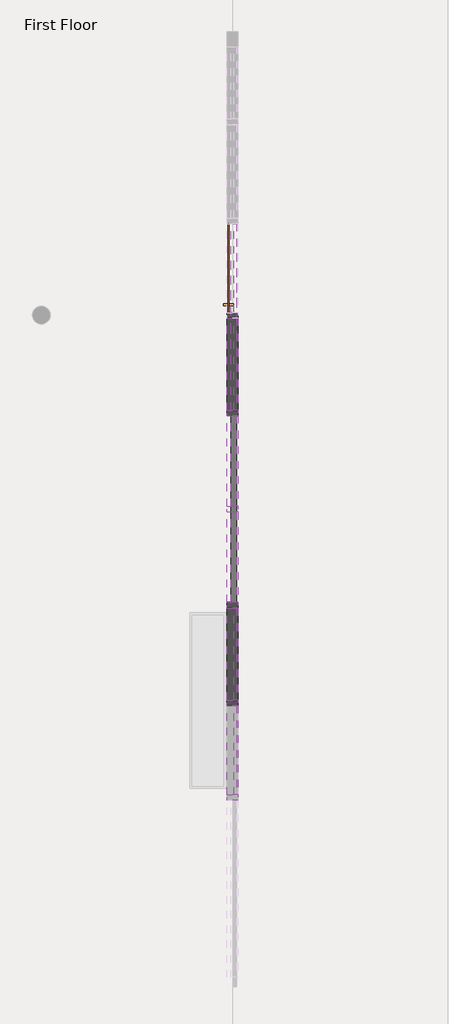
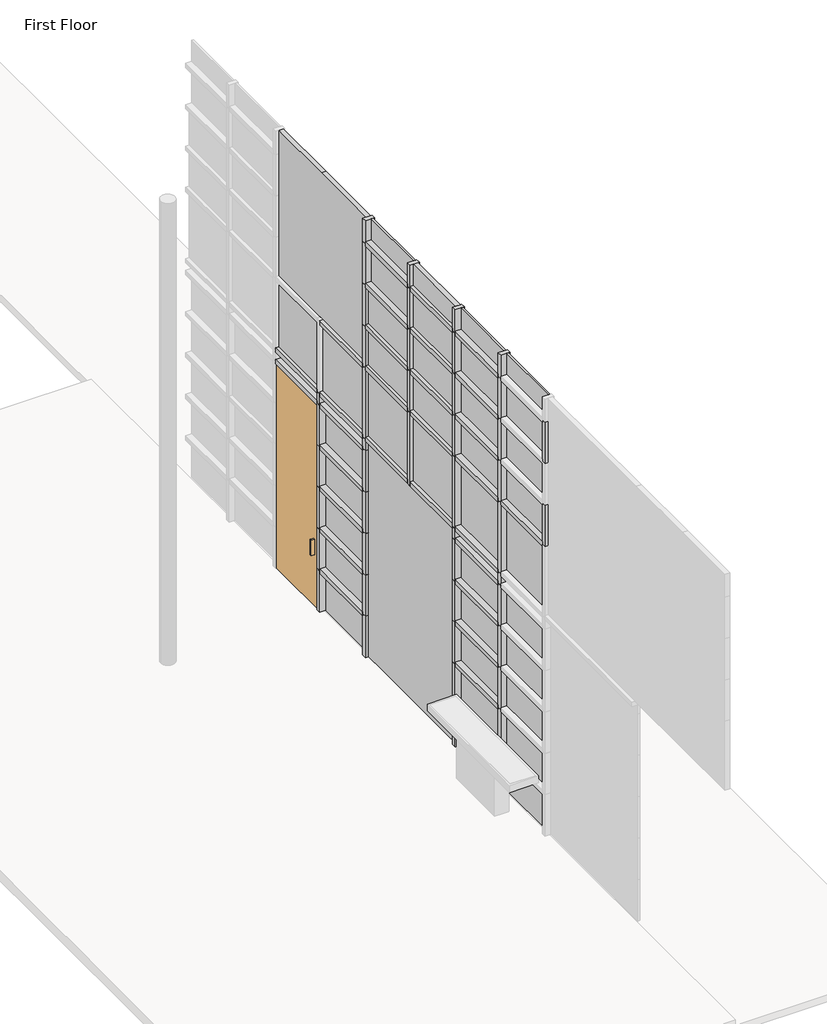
# One storey, part 5 of 9: 76 members, 43 plates, 1 door.
"""IFC4 building model written with IfcOpenShell, lengths in millimetres."""

from ifc_helpers import new_model, si_unit, origin, place, context, project, spatial, transform, mapped, element, save
from components import curtain_wall_sgl_glass_curtain_wall_sgl_glass_6f19eea7, rectangular_mullion_rectangular_mullion_1_6590179b, rectangular_mullion_rectangular_mullion_1_8247c789, rectangular_mullion_rectangular_mullion_1_783bfc0b, rectangular_mullion_rectangular_mullion_1_1f17a5e5, rectangular_mullion_rectangular_mullion_1_6e77e263, rectangular_mullion_rectangular_mullion_1_ec152034, rectangular_mullion_rectangular_mullion_1_d31034ac, rectangular_mullion_rectangular_mullion_1_8148fb0b, system_panel_glazed_b4721104, system_panel_glazed_6a0b3b0c, system_panel_glazed_52538ea0, system_panel_glazed_9cb638f8, system_panel_glazed_15330518, system_panel_glazed_088600c4, system_panel_glazed_0da01d59, system_panel_glazed_29ccdd55, system_panel_glazed_878c317c, system_panel_glazed_cc9c3ac5, system_panel_glazed_cbd16b08, system_panel_glazed_9be232bd, system_panel_solid_black_fee7476e, system_panel_solid_red_bfcf1acb, system_panel_solid_white_5bc9fe77, system_panel_solid_white_17b6a00f, system_panel_solid_white_0fc16f05, system_panel_wood_7e83a821, system_panel_wood_c3fb54ce

model = new_model("IFC4")

# Units and contexts
model_context = context("Model", 3, world=origin())
ifc_project = project(units=[si_unit("LENGTHUNIT", "METRE", prefix="MILLI")], contexts=[model_context])

# Site, building, storey
site = spatial("IfcSite", under=ifc_project)
building = spatial("IfcBuilding", under=site)
storey = spatial("IfcBuildingStorey", under=building, Name="First Floor", Elevation=0.0)

# Door
placement = place(None, origin())
curtain_wall_sgl_glass_curtain_wall_sgl_glass_shape = curtain_wall_sgl_glass_curtain_wall_sgl_glass_6f19eea7(model_context)
element("IfcDoor", 1, ObjectType="Curtain Wall Sgl Glass : Curtain Wall Sgl Glass", at=placement, inside=storey, context=model_context, shape_type="MappedRepresentation", body=[
    mapped(curtain_wall_sgl_glass_curtain_wall_sgl_glass_shape, transform((8.2598336, 11850.2691726, 0.0), x_axis=(0.0, 1.0, 0.0), y_axis=(-1.0, 0.0, 0.0), z_axis=(0.0, 0.0, 1.0))),
])

# Members
rectangular_mullion_rectangular_mullion_1_shape = rectangular_mullion_rectangular_mullion_1_6590179b(model_context)
element("IfcMember", 2, ObjectType="Rectangular Mullion : Rectangular Mullion 1", at=placement, inside=storey, context=model_context, shape_type="MappedRepresentation", body=[
    mapped(rectangular_mullion_rectangular_mullion_1_shape, transform((8.2598336, 10215.1441726, 3219.3104781), x_axis=(0.0, -1.0, 0.0), y_axis=(-1.0, 0.0, 0.0), z_axis=(0.0, 0.0, -1.0))),
])
element("IfcMember", 3, ObjectType="Rectangular Mullion : Rectangular Mullion 1", at=placement, inside=storey, context=model_context, shape_type="MappedRepresentation", body=[
    mapped(rectangular_mullion_rectangular_mullion_1_shape, transform((8.2598336, 8047.072744, 3219.3104781), x_axis=(0.0, -1.0, 0.0), y_axis=(-1.0, 0.0, 0.0), z_axis=(0.0, 0.0, -1.0))),
])
element("IfcMember", 4, ObjectType="Rectangular Mullion : Rectangular Mullion 1", at=placement, inside=storey, context=model_context, shape_type="MappedRepresentation", body=[
    mapped(rectangular_mullion_rectangular_mullion_1_shape, transform((8.2598336, 6944.8941726, 3219.3104781), x_axis=(0.0, -1.0, 0.0), y_axis=(-1.0, 0.0, 0.0), z_axis=(0.0, 0.0, -1.0))),
])
rectangular_mullion_rectangular_mullion_1_2_shape = rectangular_mullion_rectangular_mullion_1_8247c789(model_context)
element("IfcMember", 5, ObjectType="Rectangular Mullion : Rectangular Mullion 1", at=placement, inside=storey, context=model_context, shape_type="MappedRepresentation", body=[
    mapped(rectangular_mullion_rectangular_mullion_1_2_shape, transform((8.2598336, 9131.1084583, 3187.5604781), x_axis=(0.0, -1.0, 0.0), y_axis=(-1.0, 0.0, 0.0), z_axis=(0.0, 0.0, -1.0))),
])
rectangular_mullion_rectangular_mullion_1_3_shape = rectangular_mullion_rectangular_mullion_1_783bfc0b(model_context)
element("IfcMember", 6, ObjectType="Rectangular Mullion : Rectangular Mullion 1", at=placement, inside=storey, context=model_context, shape_type="MappedRepresentation", body=[
    mapped(rectangular_mullion_rectangular_mullion_1_3_shape, transform((8.2598336, 11317.322744, 3048.0), x_axis=(0.0, -1.0, 0.0), y_axis=(-1.0, 0.0, 0.0), z_axis=(0.0, 0.0, -1.0))),
])
element("IfcMember", 7, ObjectType="Rectangular Mullion : Rectangular Mullion 1", at=placement, inside=storey, context=model_context, shape_type="MappedRepresentation", body=[
    mapped(rectangular_mullion_rectangular_mullion_1_3_shape, transform((8.2598336, 10215.1441726, 3048.0), x_axis=(0.0, -1.0, 0.0), y_axis=(-1.0, 0.0, 0.0), z_axis=(0.0, 0.0, -1.0))),
])
element("IfcMember", 8, ObjectType="Rectangular Mullion : Rectangular Mullion 1", at=placement, inside=storey, context=model_context, shape_type="MappedRepresentation", body=[
    mapped(rectangular_mullion_rectangular_mullion_1_3_shape, transform((8.2598336, 8047.072744, 3048.0), x_axis=(0.0, -1.0, 0.0), y_axis=(-1.0, 0.0, 0.0), z_axis=(0.0, 0.0, -1.0))),
])
element("IfcMember", 9, ObjectType="Rectangular Mullion : Rectangular Mullion 1", at=placement, inside=storey, context=model_context, shape_type="MappedRepresentation", body=[
    mapped(rectangular_mullion_rectangular_mullion_1_3_shape, transform((8.2598336, 6944.8941726, 3048.0), x_axis=(0.0, -1.0, 0.0), y_axis=(-1.0, 0.0, 0.0), z_axis=(0.0, 0.0, -1.0))),
])
rectangular_mullion_rectangular_mullion_1_4_shape = rectangular_mullion_rectangular_mullion_1_1f17a5e5(model_context)
element("IfcMember", 10, ObjectType="Rectangular Mullion : Rectangular Mullion 1", at=placement, inside=storey, context=model_context, shape_type="MappedRepresentation", body=[
    mapped(rectangular_mullion_rectangular_mullion_1_4_shape, transform((8.2598336, 10215.1441726, 6096.0), x_axis=(0.0, -1.0, 0.0), y_axis=(-1.0, 0.0, 0.0), z_axis=(0.0, 0.0, -1.0))),
])
element("IfcMember", 11, ObjectType="Rectangular Mullion : Rectangular Mullion 1", at=placement, inside=storey, context=model_context, shape_type="MappedRepresentation", body=[
    mapped(rectangular_mullion_rectangular_mullion_1_4_shape, transform((8.2598336, 9131.1084583, 6096.0), x_axis=(0.0, -1.0, 0.0), y_axis=(-1.0, 0.0, 0.0), z_axis=(0.0, 0.0, -1.0))),
])
element("IfcMember", 12, ObjectType="Rectangular Mullion : Rectangular Mullion 1", at=placement, inside=storey, context=model_context, shape_type="MappedRepresentation", body=[
    mapped(rectangular_mullion_rectangular_mullion_1_4_shape, transform((8.2598336, 8047.072744, 6096.0), x_axis=(0.0, -1.0, 0.0), y_axis=(-1.0, 0.0, 0.0), z_axis=(0.0, 0.0, -1.0))),
])
element("IfcMember", 13, ObjectType="Rectangular Mullion : Rectangular Mullion 1", at=placement, inside=storey, context=model_context, shape_type="MappedRepresentation", body=[
    mapped(rectangular_mullion_rectangular_mullion_1_4_shape, transform((8.2598336, 6944.8941726, 6096.0), x_axis=(0.0, -1.0, 0.0), y_axis=(-1.0, 0.0, 0.0), z_axis=(0.0, 0.0, -1.0))),
])
rectangular_mullion_rectangular_mullion_1_5_shape = rectangular_mullion_rectangular_mullion_1_6e77e263(model_context)
element("IfcMember", 14, ObjectType="Rectangular Mullion : Rectangular Mullion 1", at=placement, inside=storey, context=model_context, shape_type="MappedRepresentation", body=[
    mapped(rectangular_mullion_rectangular_mullion_1_5_shape, transform((8.2598336, 11317.322744, 2438.4), x_axis=(0.0, -1.0, 0.0), y_axis=(-1.0, 0.0, 0.0), z_axis=(0.0, 0.0, -1.0))),
])
element("IfcMember", 15, ObjectType="Rectangular Mullion : Rectangular Mullion 1", at=placement, inside=storey, context=model_context, shape_type="MappedRepresentation", body=[
    mapped(rectangular_mullion_rectangular_mullion_1_5_shape, transform((8.2598336, 10215.1441726, 2438.4), x_axis=(0.0, -1.0, 0.0), y_axis=(-1.0, 0.0, 0.0), z_axis=(0.0, 0.0, -1.0))),
])
element("IfcMember", 16, ObjectType="Rectangular Mullion : Rectangular Mullion 1", at=placement, inside=storey, context=model_context, shape_type="MappedRepresentation", body=[
    mapped(rectangular_mullion_rectangular_mullion_1_5_shape, transform((8.2598336, 8047.072744, 2438.4), x_axis=(0.0, -1.0, 0.0), y_axis=(-1.0, 0.0, 0.0), z_axis=(0.0, 0.0, -1.0))),
])
element("IfcMember", 17, ObjectType="Rectangular Mullion : Rectangular Mullion 1", at=placement, inside=storey, context=model_context, shape_type="MappedRepresentation", body=[
    mapped(rectangular_mullion_rectangular_mullion_1_5_shape, transform((8.2598336, 6944.8941726, 2438.4), x_axis=(0.0, -1.0, 0.0), y_axis=(-1.0, 0.0, 0.0), z_axis=(0.0, 0.0, -1.0))),
])
element("IfcMember", 18, ObjectType="Rectangular Mullion : Rectangular Mullion 1", at=placement, inside=storey, context=model_context, shape_type="MappedRepresentation", body=[
    mapped(rectangular_mullion_rectangular_mullion_1_5_shape, transform((8.2598336, 11317.322744, 1219.2), x_axis=(0.0, -1.0, 0.0), y_axis=(-1.0, 0.0, 0.0), z_axis=(0.0, 0.0, -1.0))),
])
element("IfcMember", 19, ObjectType="Rectangular Mullion : Rectangular Mullion 1", at=placement, inside=storey, context=model_context, shape_type="MappedRepresentation", body=[
    mapped(rectangular_mullion_rectangular_mullion_1_5_shape, transform((8.2598336, 10215.1441726, 1219.2), x_axis=(0.0, -1.0, 0.0), y_axis=(-1.0, 0.0, 0.0), z_axis=(0.0, 0.0, -1.0))),
])
element("IfcMember", 20, ObjectType="Rectangular Mullion : Rectangular Mullion 1", at=placement, inside=storey, context=model_context, shape_type="MappedRepresentation", body=[
    mapped(rectangular_mullion_rectangular_mullion_1_5_shape, transform((8.2598336, 8047.072744, 1219.2), x_axis=(0.0, -1.0, 0.0), y_axis=(-1.0, 0.0, 0.0), z_axis=(0.0, 0.0, -1.0))),
])
element("IfcMember", 21, ObjectType="Rectangular Mullion : Rectangular Mullion 1", at=placement, inside=storey, context=model_context, shape_type="MappedRepresentation", body=[
    mapped(rectangular_mullion_rectangular_mullion_1_5_shape, transform((8.2598336, 6944.8941726, 1219.2), x_axis=(0.0, -1.0, 0.0), y_axis=(-1.0, 0.0, 0.0), z_axis=(0.0, 0.0, -1.0))),
])
element("IfcMember", 22, ObjectType="Rectangular Mullion : Rectangular Mullion 1", at=placement, inside=storey, context=model_context, shape_type="MappedRepresentation", body=[
    mapped(rectangular_mullion_rectangular_mullion_1_5_shape, transform((8.2598336, 11317.322744, 1828.8), x_axis=(0.0, -1.0, 0.0), y_axis=(-1.0, 0.0, 0.0), z_axis=(0.0, 0.0, -1.0))),
])
element("IfcMember", 23, ObjectType="Rectangular Mullion : Rectangular Mullion 1", at=placement, inside=storey, context=model_context, shape_type="MappedRepresentation", body=[
    mapped(rectangular_mullion_rectangular_mullion_1_5_shape, transform((8.2598336, 10215.1441726, 1828.8), x_axis=(0.0, -1.0, 0.0), y_axis=(-1.0, 0.0, 0.0), z_axis=(0.0, 0.0, -1.0))),
])
element("IfcMember", 24, ObjectType="Rectangular Mullion : Rectangular Mullion 1", at=placement, inside=storey, context=model_context, shape_type="MappedRepresentation", body=[
    mapped(rectangular_mullion_rectangular_mullion_1_5_shape, transform((8.2598336, 8047.072744, 1828.8), x_axis=(0.0, -1.0, 0.0), y_axis=(-1.0, 0.0, 0.0), z_axis=(0.0, 0.0, -1.0))),
])
element("IfcMember", 25, ObjectType="Rectangular Mullion : Rectangular Mullion 1", at=placement, inside=storey, context=model_context, shape_type="MappedRepresentation", body=[
    mapped(rectangular_mullion_rectangular_mullion_1_5_shape, transform((8.2598336, 6944.8941726, 1828.8), x_axis=(0.0, -1.0, 0.0), y_axis=(-1.0, 0.0, 0.0), z_axis=(0.0, 0.0, -1.0))),
])
element("IfcMember", 26, ObjectType="Rectangular Mullion : Rectangular Mullion 1", at=placement, inside=storey, context=model_context, shape_type="MappedRepresentation", body=[
    mapped(rectangular_mullion_rectangular_mullion_1_5_shape, transform((8.2598336, 11317.322744, 609.6), x_axis=(0.0, -1.0, 0.0), y_axis=(-1.0, 0.0, 0.0), z_axis=(0.0, 0.0, -1.0))),
])
element("IfcMember", 27, ObjectType="Rectangular Mullion : Rectangular Mullion 1", at=placement, inside=storey, context=model_context, shape_type="MappedRepresentation", body=[
    mapped(rectangular_mullion_rectangular_mullion_1_5_shape, transform((8.2598336, 10215.1441726, 609.6), x_axis=(0.0, -1.0, 0.0), y_axis=(-1.0, 0.0, 0.0), z_axis=(0.0, 0.0, -1.0))),
])
element("IfcMember", 28, ObjectType="Rectangular Mullion : Rectangular Mullion 1", at=placement, inside=storey, context=model_context, shape_type="MappedRepresentation", body=[
    mapped(rectangular_mullion_rectangular_mullion_1_5_shape, transform((8.2598336, 8047.072744, 609.6), x_axis=(0.0, -1.0, 0.0), y_axis=(-1.0, 0.0, 0.0), z_axis=(0.0, 0.0, -1.0))),
])
element("IfcMember", 29, ObjectType="Rectangular Mullion : Rectangular Mullion 1", at=placement, inside=storey, context=model_context, shape_type="MappedRepresentation", body=[
    mapped(rectangular_mullion_rectangular_mullion_1_5_shape, transform((8.2598336, 6944.8941726, 609.6), x_axis=(0.0, -1.0, 0.0), y_axis=(-1.0, 0.0, 0.0), z_axis=(0.0, 0.0, -1.0))),
])
element("IfcMember", 30, ObjectType="Rectangular Mullion : Rectangular Mullion 1", at=placement, inside=storey, context=model_context, shape_type="MappedRepresentation", body=[
    mapped(rectangular_mullion_rectangular_mullion_1_5_shape, transform((8.2598336, 10215.1441726, 4876.8), x_axis=(0.0, -1.0, 0.0), y_axis=(-1.0, 0.0, 0.0), z_axis=(0.0, 0.0, -1.0))),
])
element("IfcMember", 31, ObjectType="Rectangular Mullion : Rectangular Mullion 1", at=placement, inside=storey, context=model_context, shape_type="MappedRepresentation", body=[
    mapped(rectangular_mullion_rectangular_mullion_1_5_shape, transform((8.2598336, 9131.1084583, 4876.8), x_axis=(0.0, -1.0, 0.0), y_axis=(-1.0, 0.0, 0.0), z_axis=(0.0, 0.0, -1.0))),
])
element("IfcMember", 32, ObjectType="Rectangular Mullion : Rectangular Mullion 1", at=placement, inside=storey, context=model_context, shape_type="MappedRepresentation", body=[
    mapped(rectangular_mullion_rectangular_mullion_1_5_shape, transform((8.2598336, 8047.072744, 4876.8), x_axis=(0.0, -1.0, 0.0), y_axis=(-1.0, 0.0, 0.0), z_axis=(0.0, 0.0, -1.0))),
])
element("IfcMember", 33, ObjectType="Rectangular Mullion : Rectangular Mullion 1", at=placement, inside=storey, context=model_context, shape_type="MappedRepresentation", body=[
    mapped(rectangular_mullion_rectangular_mullion_1_5_shape, transform((8.2598336, 6944.8941726, 4876.8), x_axis=(0.0, -1.0, 0.0), y_axis=(-1.0, 0.0, 0.0), z_axis=(0.0, 0.0, -1.0))),
])
element("IfcMember", 34, ObjectType="Rectangular Mullion : Rectangular Mullion 1", at=placement, inside=storey, context=model_context, shape_type="MappedRepresentation", body=[
    mapped(rectangular_mullion_rectangular_mullion_1_5_shape, transform((8.2598336, 10215.1441726, 5486.4), x_axis=(0.0, -1.0, 0.0), y_axis=(-1.0, 0.0, 0.0), z_axis=(0.0, 0.0, -1.0))),
])
element("IfcMember", 35, ObjectType="Rectangular Mullion : Rectangular Mullion 1", at=placement, inside=storey, context=model_context, shape_type="MappedRepresentation", body=[
    mapped(rectangular_mullion_rectangular_mullion_1_5_shape, transform((8.2598336, 9131.1084583, 5486.4), x_axis=(0.0, -1.0, 0.0), y_axis=(-1.0, 0.0, 0.0), z_axis=(0.0, 0.0, -1.0))),
])
element("IfcMember", 36, ObjectType="Rectangular Mullion : Rectangular Mullion 1", at=placement, inside=storey, context=model_context, shape_type="MappedRepresentation", body=[
    mapped(rectangular_mullion_rectangular_mullion_1_5_shape, transform((8.2598336, 8047.072744, 5486.4), x_axis=(0.0, -1.0, 0.0), y_axis=(-1.0, 0.0, 0.0), z_axis=(0.0, 0.0, -1.0))),
])
element("IfcMember", 37, ObjectType="Rectangular Mullion : Rectangular Mullion 1", at=placement, inside=storey, context=model_context, shape_type="MappedRepresentation", body=[
    mapped(rectangular_mullion_rectangular_mullion_1_5_shape, transform((8.2598336, 6944.8941726, 5486.4), x_axis=(0.0, -1.0, 0.0), y_axis=(-1.0, 0.0, 0.0), z_axis=(0.0, 0.0, -1.0))),
])
element("IfcMember", 38, ObjectType="Rectangular Mullion : Rectangular Mullion 1", at=placement, inside=storey, context=model_context, shape_type="MappedRepresentation", body=[
    mapped(rectangular_mullion_rectangular_mullion_1_5_shape, transform((8.2598336, 5879.0013154, 5486.4), x_axis=(0.0, -1.0, 0.0), y_axis=(-1.0, 0.0, 0.0), z_axis=(0.0, 0.0, -1.0))),
])
element("IfcMember", 39, ObjectType="Rectangular Mullion : Rectangular Mullion 1", at=placement, inside=storey, context=model_context, shape_type="MappedRepresentation", body=[
    mapped(rectangular_mullion_rectangular_mullion_1_5_shape, transform((8.2598336, 10215.1441726, 4267.2), x_axis=(0.0, -1.0, 0.0), y_axis=(-1.0, 0.0, 0.0), z_axis=(0.0, 0.0, -1.0))),
])
element("IfcMember", 40, ObjectType="Rectangular Mullion : Rectangular Mullion 1", at=placement, inside=storey, context=model_context, shape_type="MappedRepresentation", body=[
    mapped(rectangular_mullion_rectangular_mullion_1_5_shape, transform((8.2598336, 9131.1084583, 4267.2), x_axis=(0.0, -1.0, 0.0), y_axis=(-1.0, 0.0, 0.0), z_axis=(0.0, 0.0, -1.0))),
])
element("IfcMember", 41, ObjectType="Rectangular Mullion : Rectangular Mullion 1", at=placement, inside=storey, context=model_context, shape_type="MappedRepresentation", body=[
    mapped(rectangular_mullion_rectangular_mullion_1_5_shape, transform((8.2598336, 8047.072744, 4267.2), x_axis=(0.0, -1.0, 0.0), y_axis=(-1.0, 0.0, 0.0), z_axis=(0.0, 0.0, -1.0))),
])
element("IfcMember", 42, ObjectType="Rectangular Mullion : Rectangular Mullion 1", at=placement, inside=storey, context=model_context, shape_type="MappedRepresentation", body=[
    mapped(rectangular_mullion_rectangular_mullion_1_5_shape, transform((8.2598336, 6944.8941726, 4267.2), x_axis=(0.0, -1.0, 0.0), y_axis=(-1.0, 0.0, 0.0), z_axis=(0.0, 0.0, -1.0))),
])
element("IfcMember", 43, ObjectType="Rectangular Mullion : Rectangular Mullion 1", at=placement, inside=storey, context=model_context, shape_type="MappedRepresentation", body=[
    mapped(rectangular_mullion_rectangular_mullion_1_5_shape, transform((8.2598336, 5879.0013154, 4267.2), x_axis=(0.0, -1.0, 0.0), y_axis=(-1.0, 0.0, 0.0), z_axis=(0.0, 0.0, -1.0))),
])
element("IfcMember", 44, ObjectType="Rectangular Mullion : Rectangular Mullion 1", at=placement, inside=storey, context=model_context, shape_type="MappedRepresentation", body=[
    mapped(rectangular_mullion_rectangular_mullion_1_5_shape, transform((8.2598336, 10215.1441726, 0.0), x_axis=(0.0, -1.0, 0.0), y_axis=(-1.0, 0.0, 0.0), z_axis=(0.0, 0.0, -1.0))),
])
element("IfcMember", 45, ObjectType="Rectangular Mullion : Rectangular Mullion 1", at=placement, inside=storey, context=model_context, shape_type="MappedRepresentation", body=[
    mapped(rectangular_mullion_rectangular_mullion_1_5_shape, transform((8.2598336, 8047.072744, 0.0), x_axis=(0.0, -1.0, 0.0), y_axis=(-1.0, 0.0, 0.0), z_axis=(0.0, 0.0, -1.0))),
])
element("IfcMember", 46, ObjectType="Rectangular Mullion : Rectangular Mullion 1", at=placement, inside=storey, context=model_context, shape_type="MappedRepresentation", body=[
    mapped(rectangular_mullion_rectangular_mullion_1_5_shape, transform((8.2598336, 11317.322744, 0.0), x_axis=(0.0, -1.0, 0.0), y_axis=(-1.0, 0.0, 0.0), z_axis=(0.0, 0.0, -1.0))),
])
element("IfcMember", 47, ObjectType="Rectangular Mullion : Rectangular Mullion 1", at=placement, inside=storey, context=model_context, shape_type="MappedRepresentation", body=[
    mapped(rectangular_mullion_rectangular_mullion_1_5_shape, transform((8.2598336, 6944.8941726, 0.0), x_axis=(0.0, -1.0, 0.0), y_axis=(-1.0, 0.0, 0.0), z_axis=(0.0, 0.0, -1.0))),
])
rectangular_mullion_rectangular_mullion_1_6_shape = rectangular_mullion_rectangular_mullion_1_ec152034(model_context)
element("IfcMember", 48, ObjectType="Rectangular Mullion : Rectangular Mullion 1", at=placement, inside=storey, context=model_context, shape_type="MappedRepresentation", body=[
    mapped(rectangular_mullion_rectangular_mullion_1_6_shape, transform((8.2598336, 11349.072744, 3219.3104781), x_axis=(0.0, 0.0, 1.0), y_axis=(-1.0, 0.0, 0.0), z_axis=(0.0, -1.0, 0.0))),
])
element("IfcMember", 49, ObjectType="Rectangular Mullion : Rectangular Mullion 1", at=placement, inside=storey, context=model_context, shape_type="MappedRepresentation", body=[
    mapped(rectangular_mullion_rectangular_mullion_1_6_shape, transform((8.2598336, 11349.072744, 3048.0), x_axis=(0.0, 0.0, 1.0), y_axis=(-1.0, 0.0, 0.0), z_axis=(0.0, -1.0, 0.0))),
])
element("IfcMember", 50, ObjectType="Rectangular Mullion : Rectangular Mullion 1", at=placement, inside=storey, context=model_context, shape_type="MappedRepresentation", body=[
    mapped(rectangular_mullion_rectangular_mullion_1_6_shape, transform((8.2598336, 5910.7513154, 4267.2), x_axis=(0.0, 0.0, 1.0), y_axis=(-1.0, 0.0, 0.0), z_axis=(0.0, -1.0, 0.0))),
])
rectangular_mullion_rectangular_mullion_1_7_shape = rectangular_mullion_rectangular_mullion_1_d31034ac(model_context)
element("IfcMember", 51, ObjectType="Rectangular Mullion : Rectangular Mullion 1", at=placement, inside=storey, context=model_context, shape_type="MappedRepresentation", body=[
    mapped(rectangular_mullion_rectangular_mullion_1_7_shape, transform((8.2598336, 9162.8584583, 3219.3104781), x_axis=(0.0, 0.0, 1.0), y_axis=(-1.0, 0.0, 0.0), z_axis=(0.0, -1.0, 0.0))),
])
element("IfcMember", 52, ObjectType="Rectangular Mullion : Rectangular Mullion 1", at=placement, inside=storey, context=model_context, shape_type="MappedRepresentation", body=[
    mapped(rectangular_mullion_rectangular_mullion_1_7_shape, transform((8.2598336, 8078.822744, 3219.3104781), x_axis=(0.0, 0.0, 1.0), y_axis=(-1.0, 0.0, 0.0), z_axis=(0.0, -1.0, 0.0))),
])
element("IfcMember", 53, ObjectType="Rectangular Mullion : Rectangular Mullion 1", at=placement, inside=storey, context=model_context, shape_type="MappedRepresentation", body=[
    mapped(rectangular_mullion_rectangular_mullion_1_7_shape, transform((8.2598336, 9162.8584583, 6096.0), x_axis=(0.0, 0.0, 1.0), y_axis=(-1.0, 0.0, 0.0), z_axis=(0.0, -1.0, 0.0))),
])
element("IfcMember", 54, ObjectType="Rectangular Mullion : Rectangular Mullion 1", at=placement, inside=storey, context=model_context, shape_type="MappedRepresentation", body=[
    mapped(rectangular_mullion_rectangular_mullion_1_7_shape, transform((8.2598336, 8078.822744, 6096.0), x_axis=(0.0, 0.0, 1.0), y_axis=(-1.0, 0.0, 0.0), z_axis=(0.0, -1.0, 0.0))),
])
element("IfcMember", 55, ObjectType="Rectangular Mullion : Rectangular Mullion 1", at=placement, inside=storey, context=model_context, shape_type="MappedRepresentation", body=[
    mapped(rectangular_mullion_rectangular_mullion_1_7_shape, transform((8.2598336, 9162.8584583, 4876.8), x_axis=(0.0, 0.0, 1.0), y_axis=(-1.0, 0.0, 0.0), z_axis=(0.0, -1.0, 0.0))),
])
element("IfcMember", 56, ObjectType="Rectangular Mullion : Rectangular Mullion 1", at=placement, inside=storey, context=model_context, shape_type="MappedRepresentation", body=[
    mapped(rectangular_mullion_rectangular_mullion_1_7_shape, transform((8.2598336, 8078.822744, 4876.8), x_axis=(0.0, 0.0, 1.0), y_axis=(-1.0, 0.0, 0.0), z_axis=(0.0, -1.0, 0.0))),
])
element("IfcMember", 57, ObjectType="Rectangular Mullion : Rectangular Mullion 1", at=placement, inside=storey, context=model_context, shape_type="MappedRepresentation", body=[
    mapped(rectangular_mullion_rectangular_mullion_1_7_shape, transform((8.2598336, 9162.8584583, 5486.4), x_axis=(0.0, 0.0, 1.0), y_axis=(-1.0, 0.0, 0.0), z_axis=(0.0, -1.0, 0.0))),
])
element("IfcMember", 58, ObjectType="Rectangular Mullion : Rectangular Mullion 1", at=placement, inside=storey, context=model_context, shape_type="MappedRepresentation", body=[
    mapped(rectangular_mullion_rectangular_mullion_1_7_shape, transform((8.2598336, 8078.822744, 5486.4), x_axis=(0.0, 0.0, 1.0), y_axis=(-1.0, 0.0, 0.0), z_axis=(0.0, -1.0, 0.0))),
])
element("IfcMember", 59, ObjectType="Rectangular Mullion : Rectangular Mullion 1", at=placement, inside=storey, context=model_context, shape_type="MappedRepresentation", body=[
    mapped(rectangular_mullion_rectangular_mullion_1_7_shape, transform((8.2598336, 9162.8584583, 4267.2), x_axis=(0.0, 0.0, 1.0), y_axis=(-1.0, 0.0, 0.0), z_axis=(0.0, -1.0, 0.0))),
])
element("IfcMember", 60, ObjectType="Rectangular Mullion : Rectangular Mullion 1", at=placement, inside=storey, context=model_context, shape_type="MappedRepresentation", body=[
    mapped(rectangular_mullion_rectangular_mullion_1_7_shape, transform((8.2598336, 8078.822744, 4267.2), x_axis=(0.0, 0.0, 1.0), y_axis=(-1.0, 0.0, 0.0), z_axis=(0.0, -1.0, 0.0))),
])
rectangular_mullion_rectangular_mullion_1_8_shape = rectangular_mullion_rectangular_mullion_1_8148fb0b(model_context)
element("IfcMember", 61, ObjectType="Rectangular Mullion : Rectangular Mullion 1", at=placement, inside=storey, context=model_context, shape_type="MappedRepresentation", body=[
    mapped(rectangular_mullion_rectangular_mullion_1_8_shape, transform((8.2598336, 6976.6441726, 3219.3104781), x_axis=(0.0, 0.0, 1.0), y_axis=(-1.0, 0.0, 0.0), z_axis=(0.0, -1.0, 0.0))),
])
element("IfcMember", 62, ObjectType="Rectangular Mullion : Rectangular Mullion 1", at=placement, inside=storey, context=model_context, shape_type="MappedRepresentation", body=[
    mapped(rectangular_mullion_rectangular_mullion_1_8_shape, transform((8.2598336, 10246.8941726, 3219.3104781), x_axis=(0.0, 0.0, 1.0), y_axis=(-1.0, 0.0, 0.0), z_axis=(0.0, -1.0, 0.0))),
])
element("IfcMember", 63, ObjectType="Rectangular Mullion : Rectangular Mullion 1", at=placement, inside=storey, context=model_context, shape_type="MappedRepresentation", body=[
    mapped(rectangular_mullion_rectangular_mullion_1_8_shape, transform((8.2598336, 10246.8941726, 2438.4), x_axis=(0.0, 0.0, 1.0), y_axis=(-1.0, 0.0, 0.0), z_axis=(0.0, -1.0, 0.0))),
])
element("IfcMember", 64, ObjectType="Rectangular Mullion : Rectangular Mullion 1", at=placement, inside=storey, context=model_context, shape_type="MappedRepresentation", body=[
    mapped(rectangular_mullion_rectangular_mullion_1_8_shape, transform((8.2598336, 6976.6441726, 2438.4), x_axis=(0.0, 0.0, 1.0), y_axis=(-1.0, 0.0, 0.0), z_axis=(0.0, -1.0, 0.0))),
])
element("IfcMember", 65, ObjectType="Rectangular Mullion : Rectangular Mullion 1", at=placement, inside=storey, context=model_context, shape_type="MappedRepresentation", body=[
    mapped(rectangular_mullion_rectangular_mullion_1_8_shape, transform((8.2598336, 10246.8941726, 1219.2), x_axis=(0.0, 0.0, 1.0), y_axis=(-1.0, 0.0, 0.0), z_axis=(0.0, -1.0, 0.0))),
])
element("IfcMember", 66, ObjectType="Rectangular Mullion : Rectangular Mullion 1", at=placement, inside=storey, context=model_context, shape_type="MappedRepresentation", body=[
    mapped(rectangular_mullion_rectangular_mullion_1_8_shape, transform((8.2598336, 6976.6441726, 1219.2), x_axis=(0.0, 0.0, 1.0), y_axis=(-1.0, 0.0, 0.0), z_axis=(0.0, -1.0, 0.0))),
])
element("IfcMember", 67, ObjectType="Rectangular Mullion : Rectangular Mullion 1", at=placement, inside=storey, context=model_context, shape_type="MappedRepresentation", body=[
    mapped(rectangular_mullion_rectangular_mullion_1_8_shape, transform((8.2598336, 10246.8941726, 3048.0), x_axis=(0.0, 0.0, 1.0), y_axis=(-1.0, 0.0, 0.0), z_axis=(0.0, -1.0, 0.0))),
])
element("IfcMember", 68, ObjectType="Rectangular Mullion : Rectangular Mullion 1", at=placement, inside=storey, context=model_context, shape_type="MappedRepresentation", body=[
    mapped(rectangular_mullion_rectangular_mullion_1_8_shape, transform((8.2598336, 6976.6441726, 3048.0), x_axis=(0.0, 0.0, 1.0), y_axis=(-1.0, 0.0, 0.0), z_axis=(0.0, -1.0, 0.0))),
])
element("IfcMember", 69, ObjectType="Rectangular Mullion : Rectangular Mullion 1", at=placement, inside=storey, context=model_context, shape_type="MappedRepresentation", body=[
    mapped(rectangular_mullion_rectangular_mullion_1_8_shape, transform((8.2598336, 10246.8941726, 1828.8), x_axis=(0.0, 0.0, 1.0), y_axis=(-1.0, 0.0, 0.0), z_axis=(0.0, -1.0, 0.0))),
])
element("IfcMember", 70, ObjectType="Rectangular Mullion : Rectangular Mullion 1", at=placement, inside=storey, context=model_context, shape_type="MappedRepresentation", body=[
    mapped(rectangular_mullion_rectangular_mullion_1_8_shape, transform((8.2598336, 6976.6441726, 1828.8), x_axis=(0.0, 0.0, 1.0), y_axis=(-1.0, 0.0, 0.0), z_axis=(0.0, -1.0, 0.0))),
])
element("IfcMember", 71, ObjectType="Rectangular Mullion : Rectangular Mullion 1", at=placement, inside=storey, context=model_context, shape_type="MappedRepresentation", body=[
    mapped(rectangular_mullion_rectangular_mullion_1_8_shape, transform((8.2598336, 10246.8941726, 609.6), x_axis=(0.0, 0.0, 1.0), y_axis=(-1.0, 0.0, 0.0), z_axis=(0.0, -1.0, 0.0))),
])
element("IfcMember", 72, ObjectType="Rectangular Mullion : Rectangular Mullion 1", at=placement, inside=storey, context=model_context, shape_type="MappedRepresentation", body=[
    mapped(rectangular_mullion_rectangular_mullion_1_8_shape, transform((8.2598336, 6976.6441726, 609.6), x_axis=(0.0, 0.0, 1.0), y_axis=(-1.0, 0.0, 0.0), z_axis=(0.0, -1.0, 0.0))),
])
element("IfcMember", 73, ObjectType="Rectangular Mullion : Rectangular Mullion 1", at=placement, inside=storey, context=model_context, shape_type="MappedRepresentation", body=[
    mapped(rectangular_mullion_rectangular_mullion_1_8_shape, transform((8.2598336, 6976.6441726, 6096.0), x_axis=(0.0, 0.0, 1.0), y_axis=(-1.0, 0.0, 0.0), z_axis=(0.0, -1.0, 0.0))),
])
element("IfcMember", 74, ObjectType="Rectangular Mullion : Rectangular Mullion 1", at=placement, inside=storey, context=model_context, shape_type="MappedRepresentation", body=[
    mapped(rectangular_mullion_rectangular_mullion_1_8_shape, transform((8.2598336, 6976.6441726, 4876.8), x_axis=(0.0, 0.0, 1.0), y_axis=(-1.0, 0.0, 0.0), z_axis=(0.0, -1.0, 0.0))),
])
element("IfcMember", 75, ObjectType="Rectangular Mullion : Rectangular Mullion 1", at=placement, inside=storey, context=model_context, shape_type="MappedRepresentation", body=[
    mapped(rectangular_mullion_rectangular_mullion_1_8_shape, transform((8.2598336, 6976.6441726, 5486.4), x_axis=(0.0, 0.0, 1.0), y_axis=(-1.0, 0.0, 0.0), z_axis=(0.0, -1.0, 0.0))),
])
element("IfcMember", 76, ObjectType="Rectangular Mullion : Rectangular Mullion 1", at=placement, inside=storey, context=model_context, shape_type="MappedRepresentation", body=[
    mapped(rectangular_mullion_rectangular_mullion_1_8_shape, transform((8.2598336, 10246.8941726, 4267.2), x_axis=(0.0, 0.0, 1.0), y_axis=(-1.0, 0.0, 0.0), z_axis=(0.0, -1.0, 0.0))),
])
element("IfcMember", 77, ObjectType="Rectangular Mullion : Rectangular Mullion 1", at=placement, inside=storey, context=model_context, shape_type="MappedRepresentation", body=[
    mapped(rectangular_mullion_rectangular_mullion_1_8_shape, transform((8.2598336, 6976.6441726, 4267.2), x_axis=(0.0, 0.0, 1.0), y_axis=(-1.0, 0.0, 0.0), z_axis=(0.0, -1.0, 0.0))),
])

# Plates
system_panel_glazed_shape = system_panel_glazed_b4721104(model_context)
element("IfcPlate", 78, ObjectType="System Panel : Glazed", at=placement, inside=storey, context=model_context, shape_type="MappedRepresentation", body=[
    mapped(system_panel_glazed_shape, transform((8.2598336, 7495.9834583, 3251.0604781), x_axis=(0.0, -1.0, 0.0), y_axis=(1.0, 0.0, 0.0), z_axis=(0.0, 0.0, 1.0))),
])
system_panel_glazed_2_shape = system_panel_glazed_6a0b3b0c(model_context)
element("IfcPlate", 79, ObjectType="System Panel : Glazed", at=placement, inside=storey, context=model_context, shape_type="MappedRepresentation", body=[
    mapped(system_panel_glazed_2_shape, transform((8.2598336, 6411.947744, 3251.0604781), x_axis=(0.0, -1.0, 0.0), y_axis=(1.0, 0.0, 0.0), z_axis=(0.0, 0.0, 1.0))),
])
system_panel_glazed_3_shape = system_panel_glazed_52538ea0(model_context)
element("IfcPlate", 80, ObjectType="System Panel : Glazed", at=placement, inside=storey, context=model_context, shape_type="MappedRepresentation", body=[
    mapped(system_panel_glazed_3_shape, transform((8.2598336, 11850.2691726, 3079.75), x_axis=(0.0, -1.0, 0.0), y_axis=(1.0, 0.0, 0.0), z_axis=(0.0, 0.0, 1.0))),
])
element("IfcPlate", 81, ObjectType="System Panel : Glazed", at=placement, inside=storey, context=model_context, shape_type="MappedRepresentation", body=[
    mapped(system_panel_glazed_3_shape, transform((8.2598336, 6411.947744, 3079.75), x_axis=(0.0, -1.0, 0.0), y_axis=(1.0, 0.0, 0.0), z_axis=(0.0, 0.0, 1.0))),
])
system_panel_glazed_4_shape = system_panel_glazed_9cb638f8(model_context)
element("IfcPlate", 82, ObjectType="System Panel : Glazed", at=placement, inside=storey, context=model_context, shape_type="MappedRepresentation", body=[
    mapped(system_panel_glazed_4_shape, transform((8.2598336, 10766.2334583, 3079.75), x_axis=(0.0, -1.0, 0.0), y_axis=(1.0, 0.0, 0.0), z_axis=(0.0, 0.0, 1.0))),
])
element("IfcPlate", 83, ObjectType="System Panel : Glazed", at=placement, inside=storey, context=model_context, shape_type="MappedRepresentation", body=[
    mapped(system_panel_glazed_4_shape, transform((8.2598336, 7495.9834583, 3079.75), x_axis=(0.0, -1.0, 0.0), y_axis=(1.0, 0.0, 0.0), z_axis=(0.0, 0.0, 1.0))),
])
system_panel_glazed_5_shape = system_panel_glazed_15330518(model_context)
element("IfcPlate", 84, ObjectType="System Panel : Glazed", at=placement, inside=storey, context=model_context, shape_type="MappedRepresentation", body=[
    mapped(system_panel_glazed_5_shape, transform((8.2598336, 9673.1263154, 6127.75), x_axis=(0.0, -1.0, 0.0), y_axis=(1.0, 0.0, 0.0), z_axis=(0.0, 0.0, 1.0))),
])
system_panel_glazed_6_shape = system_panel_glazed_088600c4(model_context)
element("IfcPlate", 85, ObjectType="System Panel : Glazed", at=placement, inside=storey, context=model_context, shape_type="MappedRepresentation", body=[
    mapped(system_panel_glazed_6_shape, transform((8.2598336, 7495.9834583, 6127.75), x_axis=(0.0, -1.0, 0.0), y_axis=(1.0, 0.0, 0.0), z_axis=(0.0, 0.0, 1.0))),
])
system_panel_glazed_7_shape = system_panel_glazed_0da01d59(model_context)
element("IfcPlate", 86, ObjectType="System Panel : Glazed", at=placement, inside=storey, context=model_context, shape_type="MappedRepresentation", body=[
    mapped(system_panel_glazed_7_shape, transform((8.2598336, 6411.947744, 6127.75), x_axis=(0.0, -1.0, 0.0), y_axis=(1.0, 0.0, 0.0), z_axis=(0.0, 0.0, 1.0))),
])
system_panel_glazed_8_shape = system_panel_glazed_29ccdd55(model_context)
element("IfcPlate", 87, ObjectType="System Panel : Glazed", at=placement, inside=storey, context=model_context, shape_type="MappedRepresentation", body=[
    mapped(system_panel_glazed_8_shape, transform((8.2598336, 6411.947744, 0.0), x_axis=(0.0, -1.0, 0.0), y_axis=(1.0, 0.0, 0.0), z_axis=(0.0, 0.0, 1.0))),
])
system_panel_glazed_9_shape = system_panel_glazed_878c317c(model_context)
element("IfcPlate", 88, ObjectType="System Panel : Glazed", at=placement, inside=storey, context=model_context, shape_type="MappedRepresentation", body=[
    mapped(system_panel_glazed_9_shape, transform((8.2598336, 6411.947744, 2470.15), x_axis=(0.0, -1.0, 0.0), y_axis=(1.0, 0.0, 0.0), z_axis=(0.0, 0.0, 1.0))),
])
element("IfcPlate", 89, ObjectType="System Panel : Glazed", at=placement, inside=storey, context=model_context, shape_type="MappedRepresentation", body=[
    mapped(system_panel_glazed_9_shape, transform((8.2598336, 6411.947744, 1250.95), x_axis=(0.0, -1.0, 0.0), y_axis=(1.0, 0.0, 0.0), z_axis=(0.0, 0.0, 1.0))),
])
element("IfcPlate", 90, ObjectType="System Panel : Glazed", at=placement, inside=storey, context=model_context, shape_type="MappedRepresentation", body=[
    mapped(system_panel_glazed_9_shape, transform((8.2598336, 6411.947744, 1860.55), x_axis=(0.0, -1.0, 0.0), y_axis=(1.0, 0.0, 0.0), z_axis=(0.0, 0.0, 1.0))),
])
element("IfcPlate", 91, ObjectType="System Panel : Glazed", at=placement, inside=storey, context=model_context, shape_type="MappedRepresentation", body=[
    mapped(system_panel_glazed_9_shape, transform((8.2598336, 6411.947744, 641.35), x_axis=(0.0, -1.0, 0.0), y_axis=(1.0, 0.0, 0.0), z_axis=(0.0, 0.0, 1.0))),
])
element("IfcPlate", 92, ObjectType="System Panel : Glazed", at=placement, inside=storey, context=model_context, shape_type="MappedRepresentation", body=[
    mapped(system_panel_glazed_9_shape, transform((8.2598336, 6411.947744, 4908.55), x_axis=(0.0, -1.0, 0.0), y_axis=(1.0, 0.0, 0.0), z_axis=(0.0, 0.0, 1.0))),
])
element("IfcPlate", 93, ObjectType="System Panel : Glazed", at=placement, inside=storey, context=model_context, shape_type="MappedRepresentation", body=[
    mapped(system_panel_glazed_9_shape, transform((8.2598336, 6411.947744, 5518.15), x_axis=(0.0, -1.0, 0.0), y_axis=(1.0, 0.0, 0.0), z_axis=(0.0, 0.0, 1.0))),
])
element("IfcPlate", 94, ObjectType="System Panel : Glazed", at=placement, inside=storey, context=model_context, shape_type="MappedRepresentation", body=[
    mapped(system_panel_glazed_9_shape, transform((8.2598336, 6411.947744, 4298.95), x_axis=(0.0, -1.0, 0.0), y_axis=(1.0, 0.0, 0.0), z_axis=(0.0, 0.0, 1.0))),
])
system_panel_glazed_10_shape = system_panel_glazed_cc9c3ac5(model_context)
element("IfcPlate", 95, ObjectType="System Panel : Glazed", at=placement, inside=storey, context=model_context, shape_type="MappedRepresentation", body=[
    mapped(system_panel_glazed_10_shape, transform((8.2598336, 7495.9834583, 0.0), x_axis=(0.0, -1.0, 0.0), y_axis=(1.0, 0.0, 0.0), z_axis=(0.0, 0.0, 1.0))),
])
element("IfcPlate", 96, ObjectType="System Panel : Glazed", at=placement, inside=storey, context=model_context, shape_type="MappedRepresentation", body=[
    mapped(system_panel_glazed_10_shape, transform((8.2598336, 10766.2334583, 0.0), x_axis=(0.0, -1.0, 0.0), y_axis=(1.0, 0.0, 0.0), z_axis=(0.0, 0.0, 1.0))),
])
system_panel_glazed_11_shape = system_panel_glazed_cbd16b08(model_context)
element("IfcPlate", 97, ObjectType="System Panel : Glazed", at=placement, inside=storey, context=model_context, shape_type="MappedRepresentation", body=[
    mapped(system_panel_glazed_11_shape, transform((8.2598336, 10766.2334583, 2470.15), x_axis=(0.0, -1.0, 0.0), y_axis=(1.0, 0.0, 0.0), z_axis=(0.0, 0.0, 1.0))),
])
element("IfcPlate", 98, ObjectType="System Panel : Glazed", at=placement, inside=storey, context=model_context, shape_type="MappedRepresentation", body=[
    mapped(system_panel_glazed_11_shape, transform((8.2598336, 7495.9834583, 2470.15), x_axis=(0.0, -1.0, 0.0), y_axis=(1.0, 0.0, 0.0), z_axis=(0.0, 0.0, 1.0))),
])
element("IfcPlate", 99, ObjectType="System Panel : Glazed", at=placement, inside=storey, context=model_context, shape_type="MappedRepresentation", body=[
    mapped(system_panel_glazed_11_shape, transform((8.2598336, 10766.2334583, 1250.95), x_axis=(0.0, -1.0, 0.0), y_axis=(1.0, 0.0, 0.0), z_axis=(0.0, 0.0, 1.0))),
])
element("IfcPlate", 100, ObjectType="System Panel : Glazed", at=placement, inside=storey, context=model_context, shape_type="MappedRepresentation", body=[
    mapped(system_panel_glazed_11_shape, transform((8.2598336, 7495.9834583, 1250.95), x_axis=(0.0, -1.0, 0.0), y_axis=(1.0, 0.0, 0.0), z_axis=(0.0, 0.0, 1.0))),
])
element("IfcPlate", 101, ObjectType="System Panel : Glazed", at=placement, inside=storey, context=model_context, shape_type="MappedRepresentation", body=[
    mapped(system_panel_glazed_11_shape, transform((8.2598336, 10766.2334583, 1860.55), x_axis=(0.0, -1.0, 0.0), y_axis=(1.0, 0.0, 0.0), z_axis=(0.0, 0.0, 1.0))),
])
element("IfcPlate", 102, ObjectType="System Panel : Glazed", at=placement, inside=storey, context=model_context, shape_type="MappedRepresentation", body=[
    mapped(system_panel_glazed_11_shape, transform((8.2598336, 7495.9834583, 1860.55), x_axis=(0.0, -1.0, 0.0), y_axis=(1.0, 0.0, 0.0), z_axis=(0.0, 0.0, 1.0))),
])
element("IfcPlate", 103, ObjectType="System Panel : Glazed", at=placement, inside=storey, context=model_context, shape_type="MappedRepresentation", body=[
    mapped(system_panel_glazed_11_shape, transform((8.2598336, 10766.2334583, 641.35), x_axis=(0.0, -1.0, 0.0), y_axis=(1.0, 0.0, 0.0), z_axis=(0.0, 0.0, 1.0))),
])
element("IfcPlate", 104, ObjectType="System Panel : Glazed", at=placement, inside=storey, context=model_context, shape_type="MappedRepresentation", body=[
    mapped(system_panel_glazed_11_shape, transform((8.2598336, 7495.9834583, 641.35), x_axis=(0.0, -1.0, 0.0), y_axis=(1.0, 0.0, 0.0), z_axis=(0.0, 0.0, 1.0))),
])
element("IfcPlate", 105, ObjectType="System Panel : Glazed", at=placement, inside=storey, context=model_context, shape_type="MappedRepresentation", body=[
    mapped(system_panel_glazed_11_shape, transform((8.2598336, 7495.9834583, 4908.55), x_axis=(0.0, -1.0, 0.0), y_axis=(1.0, 0.0, 0.0), z_axis=(0.0, 0.0, 1.0))),
])
element("IfcPlate", 106, ObjectType="System Panel : Glazed", at=placement, inside=storey, context=model_context, shape_type="MappedRepresentation", body=[
    mapped(system_panel_glazed_11_shape, transform((8.2598336, 7495.9834583, 5518.15), x_axis=(0.0, -1.0, 0.0), y_axis=(1.0, 0.0, 0.0), z_axis=(0.0, 0.0, 1.0))),
])
element("IfcPlate", 107, ObjectType="System Panel : Glazed", at=placement, inside=storey, context=model_context, shape_type="MappedRepresentation", body=[
    mapped(system_panel_glazed_11_shape, transform((8.2598336, 7495.9834583, 4298.95), x_axis=(0.0, -1.0, 0.0), y_axis=(1.0, 0.0, 0.0), z_axis=(0.0, 0.0, 1.0))),
])
system_panel_glazed_12_shape = system_panel_glazed_9be232bd(model_context)
element("IfcPlate", 108, ObjectType="System Panel : Glazed", at=placement, inside=storey, context=model_context, shape_type="MappedRepresentation", body=[
    mapped(system_panel_glazed_12_shape, transform((8.2598336, 9673.1263154, 5518.15), x_axis=(0.0, -1.0, 0.0), y_axis=(1.0, 0.0, 0.0), z_axis=(0.0, 0.0, 1.0))),
])
system_panel_solid_black_shape = system_panel_solid_black_fee7476e(model_context)
element("IfcPlate", 109, ObjectType="System Panel : Solid - Black", at=placement, inside=storey, context=model_context, shape_type="MappedRepresentation", body=[
    mapped(system_panel_solid_black_shape, transform((8.2598336, 9131.1084583, 0.0), x_axis=(0.0, -1.0, 0.0), y_axis=(1.0, 0.0, 0.0), z_axis=(0.0, 0.0, 1.0))),
])
system_panel_solid_red_shape = system_panel_solid_red_bfcf1acb(model_context)
element("IfcPlate", 110, ObjectType="System Panel : Solid - Red", at=placement, inside=storey, context=model_context, shape_type="MappedRepresentation", body=[
    mapped(system_panel_solid_red_shape, transform((8.2598336, 11299.1798869, 4298.95), x_axis=(0.0, -1.0, 0.0), y_axis=(1.0, 0.0, 0.0), z_axis=(0.0, 0.0, 1.0))),
])
system_panel_solid_white_shape = system_panel_solid_white_5bc9fe77(model_context)
element("IfcPlate", 111, ObjectType="System Panel : Solid - White", at=placement, inside=storey, context=model_context, shape_type="MappedRepresentation", body=[
    mapped(system_panel_solid_white_shape, transform((8.2598336, 11850.2691726, 3251.0604781), x_axis=(0.0, -1.0, 0.0), y_axis=(1.0, 0.0, 0.0), z_axis=(0.0, 0.0, 1.0))),
])
system_panel_solid_white_2_shape = system_panel_solid_white_17b6a00f(model_context)
element("IfcPlate", 112, ObjectType="System Panel : Solid - White", at=placement, inside=storey, context=model_context, shape_type="MappedRepresentation", body=[
    mapped(system_panel_solid_white_2_shape, transform((8.2598336, 9673.1263154, 3251.0604781), x_axis=(0.0, -1.0, 0.0), y_axis=(1.0, 0.0, 0.0), z_axis=(0.0, 0.0, 1.0))),
])
element("IfcPlate", 113, ObjectType="System Panel : Solid - White", at=placement, inside=storey, context=model_context, shape_type="MappedRepresentation", body=[
    mapped(system_panel_solid_white_2_shape, transform((8.2598336, 8589.0906011, 3251.0604781), x_axis=(0.0, -1.0, 0.0), y_axis=(1.0, 0.0, 0.0), z_axis=(0.0, 0.0, 1.0))),
])
system_panel_solid_white_3_shape = system_panel_solid_white_0fc16f05(model_context)
element("IfcPlate", 114, ObjectType="System Panel : Solid - White", at=placement, inside=storey, context=model_context, shape_type="MappedRepresentation", body=[
    mapped(system_panel_solid_white_3_shape, transform((8.2598336, 10766.2334583, 3251.0604781), x_axis=(0.0, -1.0, 0.0), y_axis=(1.0, 0.0, 0.0), z_axis=(0.0, 0.0, 1.0))),
])
system_panel_wood_shape = system_panel_wood_7e83a821(model_context)
element("IfcPlate", 115, ObjectType="System Panel : Wood", at=placement, inside=storey, context=model_context, shape_type="MappedRepresentation", body=[
    mapped(system_panel_wood_shape, transform((8.2598336, 8589.0906011, 6127.75), x_axis=(0.0, -1.0, 0.0), y_axis=(1.0, 0.0, 0.0), z_axis=(0.0, 0.0, 1.0))),
])
system_panel_wood_2_shape = system_panel_wood_c3fb54ce(model_context)
element("IfcPlate", 116, ObjectType="System Panel : Wood", at=placement, inside=storey, context=model_context, shape_type="MappedRepresentation", body=[
    mapped(system_panel_wood_2_shape, transform((8.2598336, 9673.1263154, 4908.55), x_axis=(0.0, -1.0, 0.0), y_axis=(1.0, 0.0, 0.0), z_axis=(0.0, 0.0, 1.0))),
])
element("IfcPlate", 117, ObjectType="System Panel : Wood", at=placement, inside=storey, context=model_context, shape_type="MappedRepresentation", body=[
    mapped(system_panel_wood_2_shape, transform((8.2598336, 8589.0906011, 4908.55), x_axis=(0.0, -1.0, 0.0), y_axis=(1.0, 0.0, 0.0), z_axis=(0.0, 0.0, 1.0))),
])
element("IfcPlate", 118, ObjectType="System Panel : Wood", at=placement, inside=storey, context=model_context, shape_type="MappedRepresentation", body=[
    mapped(system_panel_wood_2_shape, transform((8.2598336, 8589.0906011, 5518.15), x_axis=(0.0, -1.0, 0.0), y_axis=(1.0, 0.0, 0.0), z_axis=(0.0, 0.0, 1.0))),
])
element("IfcPlate", 119, ObjectType="System Panel : Wood", at=placement, inside=storey, context=model_context, shape_type="MappedRepresentation", body=[
    mapped(system_panel_wood_2_shape, transform((8.2598336, 9673.1263154, 4298.95), x_axis=(0.0, -1.0, 0.0), y_axis=(1.0, 0.0, 0.0), z_axis=(0.0, 0.0, 1.0))),
])
element("IfcPlate", 120, ObjectType="System Panel : Wood", at=placement, inside=storey, context=model_context, shape_type="MappedRepresentation", body=[
    mapped(system_panel_wood_2_shape, transform((8.2598336, 8589.0906011, 4298.95), x_axis=(0.0, -1.0, 0.0), y_axis=(1.0, 0.0, 0.0), z_axis=(0.0, 0.0, 1.0))),
])

save(model, "model.ifc")
